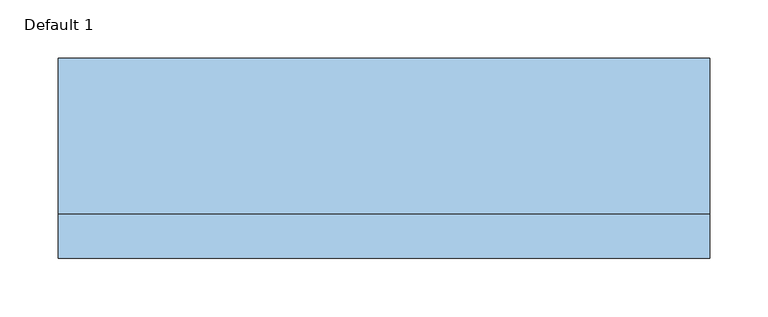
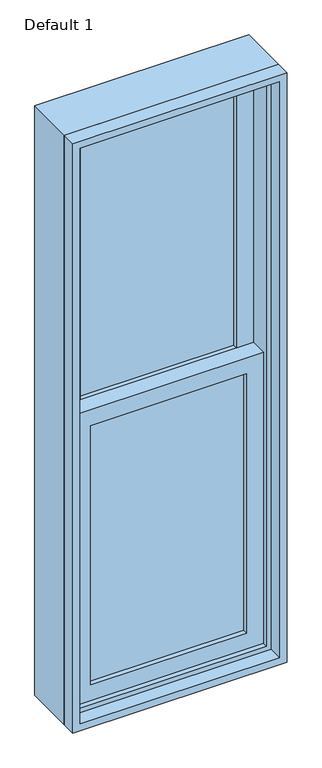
"""IFC4 building model written with IfcOpenShell, lengths in millimetres: window geometry, Planitar-Double-Hung-Single : Default 1."""

from ifc_helpers import new_model, si_unit, frame, origin, place, context, project, spatial, polyline, outline, extrude, source, transform, mapped, element, save


def default_1_ac424815(model_context):
    return source(origin(), model_context, "Body", "SweptSolid", [
        extrude(outline(polyline([(203.2, 6.35), (203.2, 0.0), (-203.2, 0.0), (-203.2, 6.35), (203.2, 6.35)])), frame((0.0, 0.0, 990.6), z_axis=(0.0, 0.0, 1.0), x_axis=(1.0, 0.0, 0.0)), (0.0, 0.0, 1.0), 714.375),
        extrude(outline(polyline([(-203.2, -6.35), (203.2, -6.35), (203.2, -12.7), (-203.2, -12.7), (-203.2, -6.35)])), frame((0.0, 0.0, 990.6), z_axis=(0.0, 0.0, 1.0), x_axis=(1.0, 0.0, 0.0)), (0.0, 0.0, 1.0), 714.375),
        extrude(outline(polyline([(203.2, 50.8), (203.2, 44.45), (-203.2, 44.45), (-203.2, 50.8), (203.2, 50.8)])), frame((0.0, 0.0, 1749.425), z_axis=(0.0, 0.0, 1.0), x_axis=(1.0, 0.0, 0.0)), (0.0, 0.0, 1.0), 714.375),
        extrude(outline(polyline([(-203.2, 38.1), (203.2, 38.1), (203.2, 31.75), (-203.2, 31.75), (-203.2, 38.1)])), frame((0.0, 0.0, 1749.425), z_axis=(0.0, 0.0, 1.0), x_axis=(1.0, 0.0, 0.0)), (0.0, 0.0, 1.0), 714.375),
        extrude(outline(polyline([(1749.425, -247.65), (946.15, -247.65), (946.15, 247.65), (1749.425, 247.65), (1749.425, -247.65)]), holes=[polyline([(1704.975, 203.2), (990.6, 203.2), (990.6, -203.2), (1704.975, -203.2), (1704.975, 203.2)])]), frame((0.0, -25.4, 0.0), z_axis=(0.0, 1.0, 0.0), x_axis=(0.0, 0.0, 1.0)), (0.0, 0.0, 1.0), 44.45),
        extrude(outline(polyline([(2508.25, -247.65), (1704.975, -247.65), (1704.975, 247.65), (2508.25, 247.65), (2508.25, -247.65)]), holes=[polyline([(2463.8, 203.2), (1749.425, 203.2), (1749.425, -203.2), (2463.8, -203.2), (2463.8, 203.2)])]), frame((0.0, 19.05, 0.0), z_axis=(0.0, 1.0, 0.0), x_axis=(0.0, 0.0, 1.0)), (0.0, 0.0, 1.0), 44.45),
        extrude(outline(polyline([(2540.0, -279.4), (914.4, -279.4), (914.4, 279.4), (2540.0, 279.4), (2540.0, -279.4)]), holes=[polyline([(2508.25, 247.65), (946.15, 247.65), (946.15, -247.65), (2508.25, -247.65), (2508.25, 247.65)])]), frame((0.0, -38.1, 0.0), z_axis=(0.0, 1.0, 0.0), x_axis=(0.0, 0.0, 1.0)), (0.0, 0.0, 1.0), 133.35),
        extrude(outline(polyline([(2540.0, 279.4), (2540.0, -279.4), (914.4, -279.4), (914.4, 279.4), (2540.0, 279.4)]), holes=[polyline([(2520.95, 260.35), (933.45, 260.35), (933.45, -260.35), (2520.95, -260.35), (2520.95, 260.35)])]), frame((0.0, -76.2, 0.0), z_axis=(0.0, 1.0, 0.0), x_axis=(0.0, 0.0, 1.0)), (0.0, 0.0, 1.0), 38.1),
    ])


if __name__ == "__main__":
    model = new_model("IFC4")
    model_context = context("Model", 3, world=origin())
    ifc_project = project(units=[si_unit("LENGTHUNIT", "METRE", prefix="MILLI")], contexts=[model_context])
    site = spatial("IfcSite", under=ifc_project)
    building = spatial("IfcBuilding", under=site)
    placement = place(None, origin())
    default_1_shape = default_1_ac424815(model_context)
    element("IfcWindow", 1, ObjectType="Planitar-Double-Hung-Single : Default 1", at=placement, inside=building, context=model_context, shape_type="MappedRepresentation", body=[
        mapped(default_1_shape, transform((0.0, 0.0, 0.0), x_axis=(1.0, 0.0, 0.0), y_axis=(0.0, 1.0, 0.0), z_axis=(0.0, 0.0, 1.0))),
    ])
    save(model, "model.ifc")
